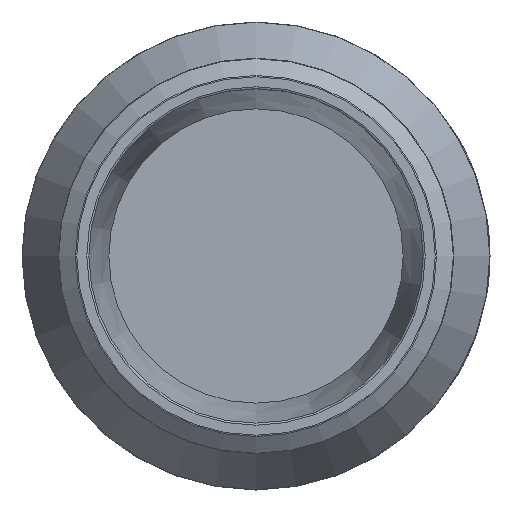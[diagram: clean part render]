
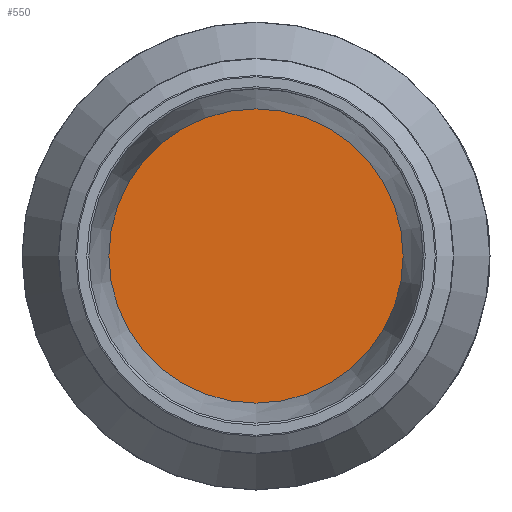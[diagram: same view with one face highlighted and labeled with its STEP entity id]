
A CAD part, left-side view. The second image highlights one B-rep face of the part: STEP entity #550.
In plain terms, the highlighted planar face has unit normal (-1, 0, 0).
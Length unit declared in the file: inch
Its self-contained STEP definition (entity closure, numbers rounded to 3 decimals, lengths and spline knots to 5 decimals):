
#550 = ADVANCED_FACE( '', ( #1177 ), #1178, .F. );
#1177 = FACE_OUTER_BOUND( '', #3712, .T. );
#1178 = PLANE( '', #3713 );
#3712 = EDGE_LOOP( '', ( #5591 ) );
#3713 = AXIS2_PLACEMENT_3D( '', #5592, #5593, #5594 );
#5591 = ORIENTED_EDGE( '', *, *, #6263, .T. );
#5592 = CARTESIAN_POINT( '', ( 0.55295, 0., 0.7075 ) );
#5593 = DIRECTION( '', ( 1., 0., 0. ) );
#5594 = DIRECTION( '', ( 0., 0., -1. ) );
#6263 = EDGE_CURVE( '', #7214, #7214, #7215, .T. );
#7214 = VERTEX_POINT( '', #9470 );
#7215 = CIRCLE( '', #9471, 0.7075 );
#9470 = CARTESIAN_POINT( '', ( 0.55295, 0., 0.7075 ) );
#9471 = AXIS2_PLACEMENT_3D( '', #10960, #10961, #10962 );
#10960 = CARTESIAN_POINT( '', ( 0.55295, 0., 0. ) );
#10961 = DIRECTION( '', ( -1., 0., 0. ) );
#10962 = DIRECTION( '', ( 0., 0., 1. ) );
